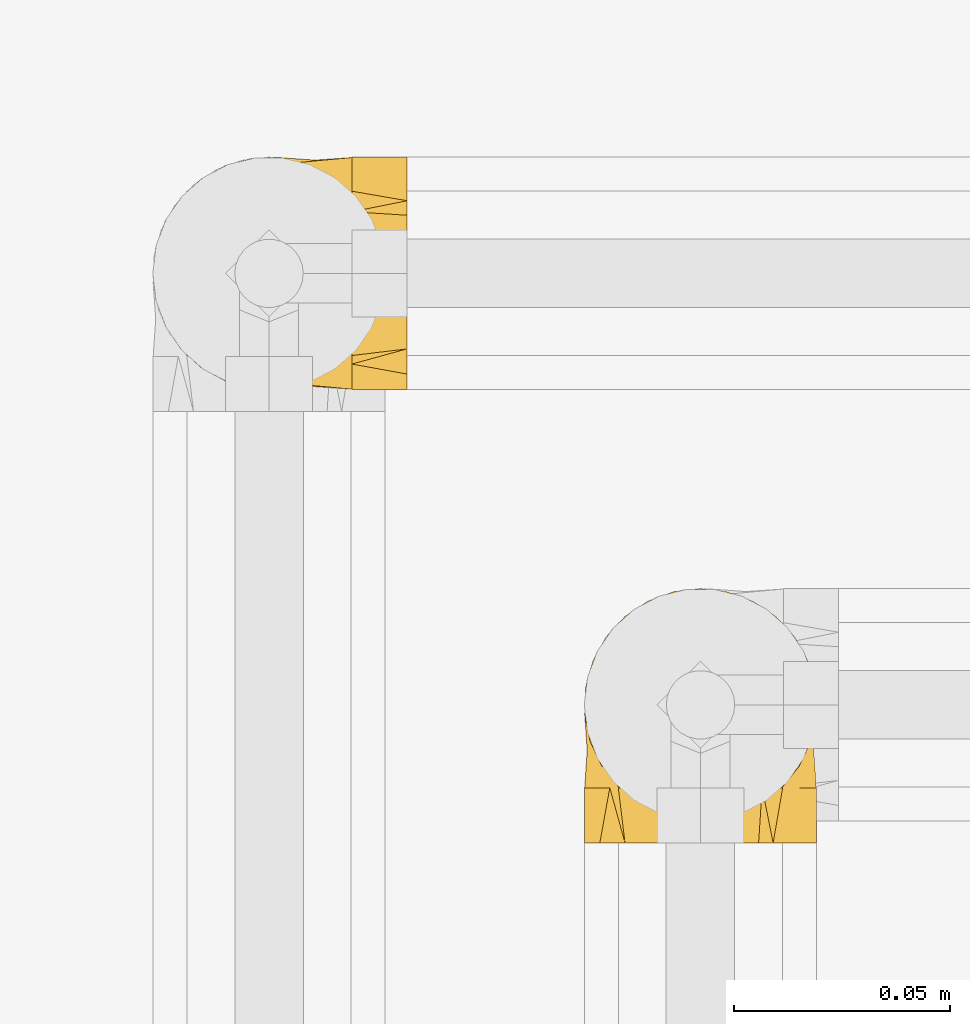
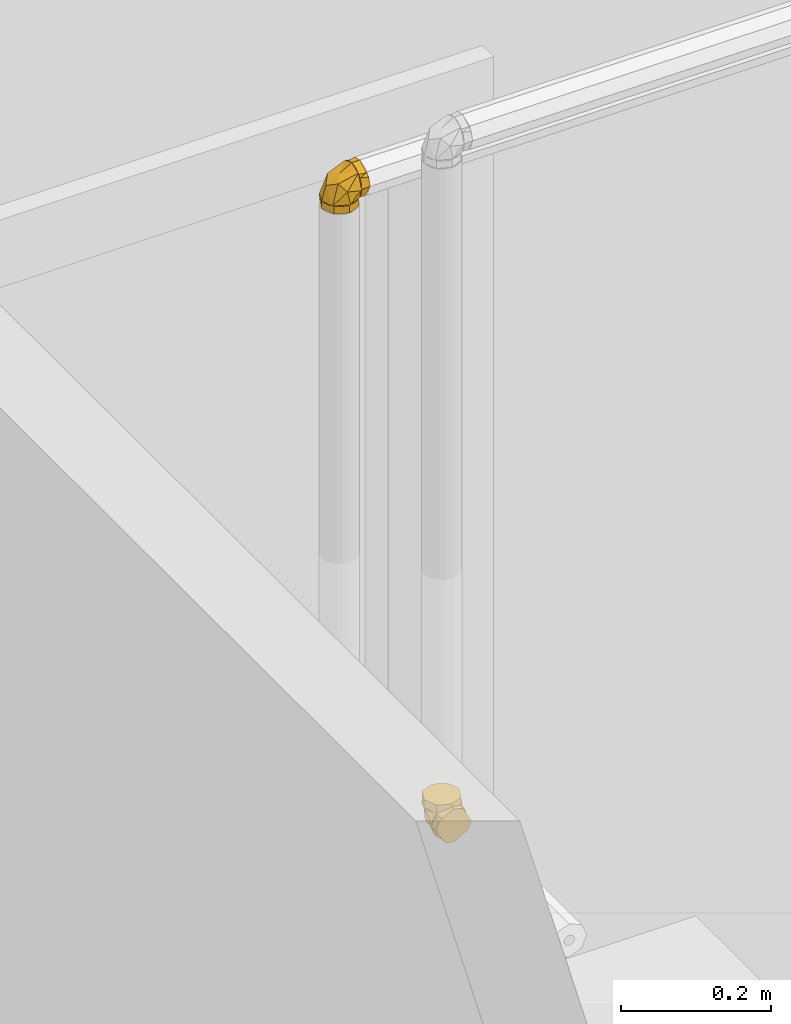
# One storey, part 382 of 652: 2 coverings.
"""IFC2X3 building model written with IfcOpenShell, lengths in millimetres."""

from ifc_helpers import new_model, entity, si_unit, converted_unit, direction, frame, origin, place, context, subcontext, project, spatial, face_set, surface_model, material, type_object, element, save


model = new_model("IFC2X3")

# Units and contexts
model_context = context("Model", 3, precision=0.01, world=frame((0.0, 0.0, 308426.39999999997)), true_north=direction((6.123233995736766e-17, 1.0)))
plan_context = context("Plan", 3, precision=0.01, world=frame((0.0, 0.0, 308426.39999999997)), true_north=direction((6.123233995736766e-17, 1.0)))
body_context = subcontext(model_context, "Body", "Model", "MODEL_VIEW")
ifc_project = project(units=[si_unit("LENGTHUNIT", "METRE", prefix="MILLI"), si_unit("AREAUNIT", "SQUARE_METRE"), si_unit("VOLUMEUNIT", "CUBIC_METRE"), converted_unit("PLANEANGLEUNIT", "DEGREE", entity("IfcPlaneAngleMeasure", 0.017453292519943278), si_unit("PLANEANGLEUNIT", "RADIAN"), dimensions=[0, 0, 0, 0, 0, 0, 0])], contexts=[model_context, plan_context])

# Site, building, storey
site_placement = place(None, origin())
site = spatial("IfcSite", under=ifc_project, at=site_placement, Name="Default", CompositionType="ELEMENT")
building_placement = place(site_placement, origin())
building = spatial("IfcBuilding", under=site, at=building_placement, CompositionType="ELEMENT")
storey_placement = place(building_placement, frame((0.0, 0.0, 1730.6999999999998)))
storey = spatial("IfcBuildingStorey", under=building, at=storey_placement, Name="EG_Produktion_FFB", CompositionType="ELEMENT", Elevation=1730.6999999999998)

# Coverings
ifc_material = material(Name="Dämmung - Armaflex-Schlauch")
covering_type = type_object("IfcCoveringType", Name="Rohrdämmung außen:Armaflex-Schlauch", PredefinedType="INSULATION")
covering_1_placement = place(storey_placement, frame((51766.957995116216, 55422.86390995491, 2671.4672277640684)))
element("IfcCovering", 1, at=covering_1_placement, inside=storey, type_object=covering_type, material=ifc_material, Name="Rohrdämmung außen:Armaflex-Schlauch", ObjectType="Rohrdämmung außen:Armaflex-Schlauch", PredefinedType="INSULATION", context=body_context, shape_type="SurfaceModel", body=[
    surface_model("IfcFaceBasedSurfaceModel", [(47.409122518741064, 12.766249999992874, 47.750272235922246), (51.38658262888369, 17.724287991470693, 47.750272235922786), (54.0915642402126, 23.47627931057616, 47.750272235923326), (55.37345654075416, 29.70195853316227, 47.75027223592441), (55.16088498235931, 36.054685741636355, 47.75027223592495), (53.465685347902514, 42.1807471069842, 47.75027223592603), (50.38224474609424, 47.7390493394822, 47.75027223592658), (46.08224622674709, 52.420111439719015, 47.75027223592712), (40.8051096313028, 55.963296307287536, 47.75027223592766), (34.844660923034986, 58.17132276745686, 47.75027223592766), (28.532772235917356, 58.921249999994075, 47.75027223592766), (22.220883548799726, 58.17132276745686, 47.75027223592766), (16.26043484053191, 55.963296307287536, 47.75027223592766), (10.983298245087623, 52.420111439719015, 47.75027223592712), (6.683299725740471, 47.7390493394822, 47.75027223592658), (3.599859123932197, 42.1807471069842, 47.75027223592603), (1.904659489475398, 36.054685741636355, 47.75027223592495), (1.6920879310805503, 29.70195853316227, 47.75027223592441), (2.973980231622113, 23.47627931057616, 47.750272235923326), (5.678961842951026, 17.724287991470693, 47.750272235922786), (9.65642195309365, 12.766249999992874, 47.750272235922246), (5.678961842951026, 12.766249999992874, 42.79223424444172), (2.973980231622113, 12.766249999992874, 37.04024292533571), (1.6920879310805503, 12.766249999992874, 30.81456370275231), (1.904659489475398, 12.766249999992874, 24.46183649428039), (3.599859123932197, 12.766249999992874, 18.33577512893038), (6.683299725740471, 12.766249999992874, 12.777472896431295), (10.983298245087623, 12.766250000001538, 8.096410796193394), (16.26043484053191, 12.766250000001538, 4.553225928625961), (22.220883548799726, 12.766250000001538, 2.3451994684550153), (28.532772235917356, 12.766250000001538, 1.5952722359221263), (34.844660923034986, 12.766250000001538, 2.3451994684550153), (40.8051096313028, 12.766250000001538, 4.553225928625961), (46.08224622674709, 12.766250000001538, 8.096410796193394), (50.38224474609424, 12.766249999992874, 12.777472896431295), (53.465685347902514, 12.766249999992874, 18.33577512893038), (55.16088498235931, 12.766249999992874, 24.46183649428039), (55.37345654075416, 12.766249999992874, 30.81456370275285), (54.0915642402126, 12.766249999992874, 37.04024292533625), (51.38658262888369, 12.766249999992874, 42.79223424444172), (54.790491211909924, 21.44485469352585, 37.80740068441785), (28.531628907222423, 52.73596797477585, 24.672737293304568), (53.464990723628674, 33.56504512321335, 26.951086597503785), (50.72562304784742, 41.06226192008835, 47.750398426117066), (28.531628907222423, 31.030316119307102, 12.13978136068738), (42.78192187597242, 41.84360957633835, 17.332487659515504), (50.72562304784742, 12.766314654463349, 19.45561388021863), (14.28598681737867, 41.84360957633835, 17.332487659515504), (3.598267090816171, 33.56504512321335, 26.951086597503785), (2.2774174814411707, 21.44485469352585, 37.80740068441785), (6.337634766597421, 12.766314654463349, 19.45561388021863), (6.337634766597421, 41.06226192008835, 47.750398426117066), (42.818538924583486, 53.00389168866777, 60.51652223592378), (38.056616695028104, 54.97634445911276, 60.51652223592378), (33.29469446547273, 56.948797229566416, 60.51652223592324), (28.532772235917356, 58.921250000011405, 60.5165222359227), (23.77085000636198, 56.94879722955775, 60.51652223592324), (19.008927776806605, 54.97634445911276, 60.51652223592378), (14.247005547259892, 53.00389168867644, 60.51652223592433), (9.485083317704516, 51.03143891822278, 60.51652223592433), (7.512630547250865, 46.26951668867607, 60.51652223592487), (5.540177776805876, 41.507594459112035, 60.51652223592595), (3.567725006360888, 36.74567222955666, 60.51652223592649), (1.5952722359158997, 31.983750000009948, 60.516522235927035), (3.567725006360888, 27.221827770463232, 60.516522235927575), (5.540177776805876, 22.459905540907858, 60.516522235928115), (7.512630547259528, 17.697983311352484, 60.516522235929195), (9.485083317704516, 12.936061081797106, 60.51652223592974), (14.247005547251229, 10.963608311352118, 60.51652223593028), (19.008927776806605, 8.99115554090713, 60.51652223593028), (23.77085000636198, 7.018702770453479, 60.51652223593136), (28.532772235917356, 5.046250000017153, 60.51652223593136), (33.29469446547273, 7.018702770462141, 60.51652223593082), (38.056616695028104, 8.99115554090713, 60.51652223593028), (42.818538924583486, 10.963608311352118, 60.51652223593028), (47.5804611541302, 12.936061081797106, 60.51652223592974), (49.55291392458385, 17.697983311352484, 60.516522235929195), (51.525366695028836, 22.459905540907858, 60.516522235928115), (53.497819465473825, 27.22182777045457, 60.516522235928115), (55.47027223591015, 31.983750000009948, 60.516522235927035), (53.497819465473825, 36.74567222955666, 60.51652223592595), (51.525366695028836, 41.507594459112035, 60.51652223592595), (49.552913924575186, 46.26951668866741, 60.51652223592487), (47.5804611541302, 51.03143891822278, 60.51652223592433), (28.532772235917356, 58.92125000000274, 47.75027223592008), (33.29469446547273, 56.94879722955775, 47.75027223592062), (38.056616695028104, 54.97634445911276, 47.750272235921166), (42.81853892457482, 53.00389168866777, 47.750272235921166), (47.5804611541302, 51.03143891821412, 47.750272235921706), (49.96980627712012, 45.26304951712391, 47.750272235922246), (52.35915140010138, 39.49466011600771, 47.750272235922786), (55.47027223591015, 31.983750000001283, 47.75027223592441), (53.497819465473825, 27.221827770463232, 47.75027223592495), (51.525366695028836, 22.459905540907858, 47.75027223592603), (49.552913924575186, 17.697983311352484, 47.75027223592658), (47.5804611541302, 12.936061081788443, 47.75027223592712), (41.81207175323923, 10.546715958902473, 47.75027223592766), (36.04368235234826, 8.157370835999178, 47.7502722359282), (28.532772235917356, 5.046250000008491, 47.75027223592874), (23.77085000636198, 7.018702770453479, 47.7502722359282), (19.008927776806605, 8.99115554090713, 47.7502722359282), (14.247005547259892, 10.963608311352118, 47.7502722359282), (9.485083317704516, 12.936061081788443, 47.75027223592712), (7.095738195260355, 18.704450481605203, 47.75027223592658), (4.706393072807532, 24.472839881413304, 47.75027223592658), (1.5952722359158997, 31.983750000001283, 47.75027223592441), (3.567725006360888, 36.74567222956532, 47.75027223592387), (5.540177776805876, 41.507594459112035, 47.750272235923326), (7.512630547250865, 46.26951668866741, 47.750272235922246), (9.485083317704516, 51.03143891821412, 47.750272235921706), (15.253472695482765, 53.420784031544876, 47.750272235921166), (21.021862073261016, 55.81012914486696, 47.750272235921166), (28.532772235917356, 0.0, 1.5952722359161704), (34.36491206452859, 0.0, 4.962459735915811), (40.197051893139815, 0.0, 8.329647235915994), (46.02919172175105, 0.0, 11.696834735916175), (51.86133155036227, 0.0, 15.064022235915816), (53.66580189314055, 0.0, 21.798397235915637), (55.47027223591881, 0.0, 28.532772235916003), (52.10308473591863, 0.0, 34.36491206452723), (48.73589723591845, 0.0, 40.19705189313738), (45.368709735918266, 0.0, 46.02919172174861), (42.00152223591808, 0.0, 51.861331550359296), (35.26714723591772, 0.0, 53.66580189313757), (28.532772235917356, 0.0, 55.470272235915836), (22.700632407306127, 0.0, 52.10308473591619), (16.868492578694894, 0.0, 48.73589723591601), (11.036352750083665, 0.0, 45.36870973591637), (5.204212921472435, 0.0, 42.00152223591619), (3.3997425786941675, 0.0, 35.26714723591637), (1.5952722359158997, 0.0, 28.532772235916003), (4.962459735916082, 0.0, 22.700632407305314), (8.329647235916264, 0.0, 16.868492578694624), (11.696834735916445, 0.0, 11.036352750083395), (15.064022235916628, 0.0, 5.204212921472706), (21.79839723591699, 0.0, 3.3997425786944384), (28.532772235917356, 12.766250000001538, 1.5952722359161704), (23.77085000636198, 12.766250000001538, 3.567725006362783), (19.008927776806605, 12.766250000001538, 5.540177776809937), (14.247005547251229, 12.766250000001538, 7.512630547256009), (9.485083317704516, 12.766250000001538, 9.485083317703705), (7.512630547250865, 12.766250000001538, 14.247005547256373), (5.540177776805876, 12.766250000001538, 19.008927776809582), (3.567725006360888, 12.766250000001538, 23.770850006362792), (1.5952722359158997, 12.766250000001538, 28.532772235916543), (3.567725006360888, 12.766250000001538, 33.29469446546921), (5.540177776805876, 12.766250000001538, 38.05661669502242), (7.512630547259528, 12.766250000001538, 42.818538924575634), (9.485083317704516, 12.766250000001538, 47.58046115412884), (14.247005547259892, 12.766250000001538, 49.552913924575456), (19.008927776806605, 12.766250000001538, 51.525366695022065), (23.77085000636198, 12.766250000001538, 53.49781946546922), (28.532772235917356, 12.766250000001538, 55.470272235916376), (33.29469446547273, 12.766250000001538, 53.49781946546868), (38.056616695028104, 12.766250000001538, 51.525366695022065), (42.818538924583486, 12.766250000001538, 49.552913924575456), (47.5804611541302, 12.766250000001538, 47.58046115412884), (49.552913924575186, 12.766250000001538, 42.818538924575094), (51.525366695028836, 12.766250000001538, 38.05661669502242), (53.497819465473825, 12.766250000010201, 33.29469446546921), (55.47027223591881, 12.766250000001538, 28.532772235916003), (53.497819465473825, 12.766250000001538, 23.770850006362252), (51.525366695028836, 12.766250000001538, 19.008927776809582), (49.552913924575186, 12.766250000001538, 14.247005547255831), (47.5804611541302, 12.766250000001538, 9.485083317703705), (42.81853892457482, 12.766250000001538, 7.512630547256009), (38.056616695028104, 12.766250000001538, 5.540177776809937), (33.29469446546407, 12.766250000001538, 3.5677250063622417)], [face_set([[[0, 1, 2, 3, 4, 5, 6, 7, 8, 9, 10, 11, 12, 13, 14, 15, 16, 17, 18, 19]], [[20, 21, 22, 23, 24, 25, 26, 27, 28, 29, 30, 31, 32, 33, 34, 35, 36, 37, 38, 39]], [[0, 40, 3]], [[10, 7, 41]], [[37, 42, 40]], [[42, 7, 43]], [[37, 40, 0]], [[3, 40, 42]], [[44, 41, 45]], [[7, 45, 41]], [[33, 30, 44]], [[44, 45, 33]], [[42, 33, 45]], [[42, 37, 46]], [[7, 42, 45]], [[43, 3, 42]], [[46, 33, 42]], [[13, 10, 41]], [[27, 47, 44]], [[44, 30, 27]], [[48, 47, 27]], [[49, 48, 23]], [[48, 50, 23]], [[44, 47, 41]], [[20, 49, 23]], [[47, 48, 13]], [[17, 49, 20]], [[41, 47, 13]], [[48, 17, 51]], [[48, 27, 50]], [[17, 48, 49]], [[51, 13, 48]]]), face_set([[[52, 53, 54, 55, 56, 57, 58, 59, 60, 61, 62, 63, 64, 65, 66, 67, 68, 69, 70, 71, 72, 73, 74, 75, 76, 77, 78, 79, 80, 81, 82, 83]], [[84, 85, 86, 87, 88, 89, 90, 91, 92, 93, 94, 95, 96, 97, 98, 99, 100, 101, 102, 103, 104, 105, 106, 107, 108, 109, 110, 111]], [[111, 110, 109, 59, 58, 57, 56, 55, 84]], [[59, 109, 108, 107, 106, 105, 63, 62, 61, 60]], [[104, 103, 102, 67, 66, 65, 64, 63, 105]], [[67, 102, 101, 100, 99, 98, 71, 70, 69, 68]], [[97, 96, 95, 75, 74, 73, 72, 71, 98]], [[75, 95, 94, 93, 92, 91, 79, 78, 77, 76]], [[90, 89, 88, 83, 82, 81, 80, 79, 91]], [[83, 88, 87, 86, 85, 84, 55, 54, 53, 52]]]), face_set([[[112, 113, 114, 115, 116, 117, 118, 119, 120, 121, 122, 123, 124, 125, 126, 127, 128, 129, 130, 131, 132, 133, 134, 135]], [[136, 137, 138, 139, 140, 141, 142, 143, 144, 145, 146, 147, 148, 149, 150, 151, 152, 153, 154, 155, 156, 157, 158, 159, 160, 161, 162, 163, 164, 165, 166, 167]], [[155, 121, 156]], [[118, 159, 119]], [[159, 158, 119]], [[123, 154, 153]], [[153, 152, 124]], [[121, 155, 122]], [[120, 158, 157]], [[118, 160, 159]], [[158, 120, 119]], [[124, 123, 153]], [[157, 156, 121]], [[155, 154, 122]], [[123, 122, 154]], [[120, 157, 121]], [[163, 115, 164]], [[112, 167, 113]], [[167, 166, 113]], [[117, 162, 161]], [[161, 160, 118]], [[115, 163, 116]], [[114, 166, 165]], [[112, 136, 167]], [[166, 114, 113]], [[118, 117, 161]], [[165, 164, 115]], [[163, 162, 116]], [[117, 116, 162]], [[114, 165, 115]], [[139, 133, 140]], [[130, 143, 131]], [[143, 142, 131]], [[135, 138, 137]], [[137, 136, 112]], [[133, 139, 134]], [[132, 142, 141]], [[130, 144, 143]], [[142, 132, 131]], [[112, 135, 137]], [[141, 140, 133]], [[139, 138, 134]], [[135, 134, 138]], [[132, 141, 133]], [[147, 127, 148]], [[124, 151, 125]], [[151, 150, 125]], [[129, 146, 145]], [[145, 144, 130]], [[127, 147, 128]], [[126, 150, 149]], [[124, 152, 151]], [[150, 126, 125]], [[130, 129, 145]], [[149, 148, 127]], [[147, 146, 128]], [[129, 128, 146]], [[126, 149, 127]]])]),
])
covering_2_placement = place(storey_placement, frame((51666.95799511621, 55526.31488771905, 3668.0162500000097)))
element("IfcCovering", 2, at=covering_2_placement, inside=storey, type_object=covering_type, material=ifc_material, Name="Rohrdämmung außen:Armaflex-Schlauch", ObjectType="Rohrdämmung außen:Armaflex-Schlauch", PredefinedType="INSULATION", context=body_context, shape_type="SurfaceModel", body=[
    surface_model("IfcFaceBasedSurfaceModel", [(47.750272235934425, 9.65642195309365, 12.766250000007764), (42.79223424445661, 5.678961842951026, 12.76625000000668), (37.040242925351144, 2.973980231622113, 12.76625000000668), (30.81456370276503, 1.6920879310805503, 12.766250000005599), (24.461836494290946, 1.904659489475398, 12.766250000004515), (18.3357751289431, 3.599859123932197, 12.766250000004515), (12.777472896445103, 6.683299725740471, 12.766250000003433), (8.096410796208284, 10.983298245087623, 12.766250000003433), (4.553225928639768, 16.26043484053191, 12.76625000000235), (2.345199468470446, 22.220883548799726, 12.76625000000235), (1.5952722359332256, 28.532772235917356, 12.76625000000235), (2.345199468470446, 34.844660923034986, 12.76625000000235), (4.553225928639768, 40.8051096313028, 12.76625000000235), (8.096410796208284, 46.08224622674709, 12.766250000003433), (12.777472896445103, 50.38224474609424, 12.766250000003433), (18.3357751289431, 53.465685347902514, 12.766250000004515), (24.461836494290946, 55.16088498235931, 12.766250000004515), (30.81456370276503, 55.37345654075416, 12.766250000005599), (37.040242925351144, 54.0915642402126, 12.76625000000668), (42.79223424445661, 51.38658262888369, 12.76625000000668), (47.750272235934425, 47.409122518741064, 12.766250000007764), (47.750272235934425, 5.678961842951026, 17.72428799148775), (47.750272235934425, 2.973980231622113, 23.4762793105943), (47.750272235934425, 1.6920879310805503, 29.70195853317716), (47.750272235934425, 1.904659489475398, 36.05468574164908), (47.750272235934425, 3.599859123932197, 42.18074710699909), (47.750272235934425, 6.683299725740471, 47.73904933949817), (47.75027223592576, 10.983298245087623, 52.420111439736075), (47.75027223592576, 16.26043484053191, 55.96329630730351), (47.75027223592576, 22.220883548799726, 58.171322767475), (47.75027223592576, 28.532772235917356, 58.92125000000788), (47.75027223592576, 34.844660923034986, 58.171322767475), (47.75027223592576, 40.8051096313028, 55.96329630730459), (47.75027223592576, 46.08224622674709, 52.420111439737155), (47.750272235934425, 50.38224474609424, 47.73904933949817), (47.750272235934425, 53.465685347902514, 42.18074710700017), (47.750272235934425, 55.16088498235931, 36.05468574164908), (47.750272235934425, 55.37345654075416, 29.70195853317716), (47.750272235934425, 54.0915642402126, 23.4762793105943), (47.750272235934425, 51.38658262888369, 17.72428799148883), (39.071973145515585, 2.2771044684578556, 22.70922760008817), (7.780859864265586, 28.531315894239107, 35.84389099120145), (19.454565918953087, 6.3373217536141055, 12.76622985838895), (26.951782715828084, 3.597954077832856, 33.56554168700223), (18.673218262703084, 14.285673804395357, 43.18414062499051), (29.486511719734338, 28.531315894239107, 48.37684692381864), (47.75051318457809, 6.3373217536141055, 41.06101440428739), (18.673218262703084, 42.78160886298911, 43.18414062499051), (26.951782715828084, 53.464677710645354, 33.56554168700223), (39.071973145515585, 54.790178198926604, 22.70922760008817), (47.75051318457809, 50.729960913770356, 41.06101440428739), (19.454565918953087, 50.729960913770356, 12.76622985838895), (7.512630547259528, 14.247005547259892, 0.0), (5.540177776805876, 19.008927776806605, 0.0), (3.567725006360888, 23.77085000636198, 0.0), (1.5952722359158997, 28.532772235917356, 0.0), (3.567725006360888, 33.29469446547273, 0.0), (5.540177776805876, 38.056616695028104, 0.0), (7.512630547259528, 42.818538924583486, 0.0), (9.485083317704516, 47.5804611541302, 0.0), (14.247005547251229, 49.55291392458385, 0.0), (19.008927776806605, 51.525366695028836, 0.0), (23.77085000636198, 53.497819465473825, 0.0), (28.532772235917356, 55.47027223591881, 0.0), (33.29469446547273, 53.497819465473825, 0.0), (38.056616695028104, 51.525366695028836, 0.0), (42.81853892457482, 49.552913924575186, 0.0), (47.5804611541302, 47.5804611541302, 0.0), (49.55291392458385, 42.818538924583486, 0.0), (51.525366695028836, 38.056616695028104, 0.0), (53.497819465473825, 33.29469446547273, 0.0), (55.47027223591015, 28.532772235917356, 0.0), (53.497819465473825, 23.77085000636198, 0.0), (51.525366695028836, 19.008927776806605, 0.0), (49.55291392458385, 14.247005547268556, 0.0), (47.5804611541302, 9.485083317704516, 0.0), (42.818538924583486, 7.512630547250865, 0.0), (38.056616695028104, 5.540177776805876, 0.0), (33.29469446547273, 3.567725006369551, 0.0), (28.532772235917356, 1.5952722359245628, 0.0), (23.77085000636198, 3.567725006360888, 0.0), (19.008927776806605, 5.540177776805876, 0.0), (14.247005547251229, 7.512630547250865, 0.0), (9.485083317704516, 9.485083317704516, 0.0), (1.5952722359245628, 28.532772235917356, 12.76625000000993), (3.567725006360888, 23.77085000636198, 12.76625000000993), (5.540177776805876, 19.008927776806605, 12.76625000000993), (7.512630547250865, 14.247005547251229, 12.766250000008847), (9.48508331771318, 9.485083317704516, 12.766250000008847), (15.253472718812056, 7.095738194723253, 12.766250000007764), (21.02186211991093, 4.706393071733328, 12.76625000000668), (28.532772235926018, 1.5952722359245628, 12.766250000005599), (33.29469446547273, 3.567725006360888, 12.766250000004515), (38.056616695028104, 5.540177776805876, 12.766250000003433), (42.81853892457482, 7.512630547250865, 12.76625000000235), (47.58046115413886, 9.485083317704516, 12.76625000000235), (49.96980627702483, 15.253472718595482, 12.76625000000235), (52.35915139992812, 21.021862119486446, 12.766250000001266), (55.47027223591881, 28.532772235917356, 12.766250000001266), (53.497819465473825, 33.29469446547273, 12.766250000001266), (51.525366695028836, 38.056616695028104, 12.766250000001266), (49.55291392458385, 42.818538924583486, 12.76625000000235), (47.58046115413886, 47.5804611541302, 12.76625000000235), (41.8120717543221, 49.96980627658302, 12.766250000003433), (36.043682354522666, 52.359151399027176, 12.766250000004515), (28.532772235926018, 55.47027223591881, 12.766250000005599), (23.77085000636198, 53.497819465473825, 12.76625000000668), (19.008927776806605, 51.525366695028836, 12.766250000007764), (14.247005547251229, 49.552913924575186, 12.766250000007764), (9.48508331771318, 47.5804611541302, 12.766250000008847), (7.095738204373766, 41.81207177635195, 12.766250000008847), (4.706393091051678, 36.0436823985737, 12.76625000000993), (60.51652223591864, 28.532772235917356, 58.92125000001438), (60.516522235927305, 22.70063240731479, 55.554062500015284), (60.51652223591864, 16.868492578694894, 52.1868750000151), (60.51652223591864, 11.036352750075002, 48.819687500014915), (60.51652223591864, 5.204212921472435, 45.45250000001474), (60.51652223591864, 3.3997425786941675, 38.718125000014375), (60.51652223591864, 1.5952722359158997, 31.98375000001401), (60.516522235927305, 4.962459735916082, 26.151610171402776), (60.51652223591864, 8.329647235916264, 20.31947034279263), (60.51652223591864, 11.696834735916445, 14.487330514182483), (60.51652223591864, 15.064022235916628, 8.655190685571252), (60.51652223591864, 21.79839723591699, 6.850720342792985), (60.51652223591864, 28.532772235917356, 5.046250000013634), (60.516522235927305, 34.36491206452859, 8.413437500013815), (60.51652223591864, 40.197051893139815, 11.780625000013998), (60.51652223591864, 46.02919172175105, 15.14781250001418), (60.51652223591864, 51.86133155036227, 18.51500000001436), (60.51652223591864, 53.66580189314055, 25.249375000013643), (60.51652223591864, 55.47027223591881, 31.98375000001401), (60.516522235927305, 52.10308473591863, 37.81588982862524), (60.51652223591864, 48.73589723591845, 43.648029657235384), (60.51652223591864, 45.36870973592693, 49.480169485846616), (60.51652223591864, 42.00152223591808, 55.31230931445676), (60.51652223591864, 35.26714723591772, 57.11677965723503), (47.75027223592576, 28.532772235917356, 58.92125000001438), (47.75027223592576, 33.29469446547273, 56.94879722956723), (47.75027223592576, 38.056616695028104, 54.97634445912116), (47.75027223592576, 42.818538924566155, 53.003891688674), (47.75027223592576, 47.5804611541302, 51.03143891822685), (47.75027223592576, 49.55291392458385, 46.26951668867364), (47.75027223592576, 51.525366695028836, 41.507594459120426), (47.75027223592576, 53.497819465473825, 36.74567222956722), (47.75027223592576, 55.47027223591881, 31.98375000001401), (47.75027223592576, 53.497819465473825, 27.2218277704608), (47.75027223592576, 51.525366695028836, 22.459905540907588), (47.75027223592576, 49.552913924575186, 17.697983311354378), (47.75027223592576, 47.5804611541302, 12.936061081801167), (47.75027223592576, 42.81853892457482, 10.963608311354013), (47.75027223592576, 38.056616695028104, 8.99115554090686), (47.75027223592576, 33.29469446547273, 7.018702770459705), (47.75027223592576, 28.532772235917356, 5.046250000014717), (47.75027223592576, 23.77085000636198, 7.018702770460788), (47.75027223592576, 19.008927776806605, 8.99115554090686), (47.750272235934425, 14.247005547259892, 10.963608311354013), (47.75027223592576, 9.485083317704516, 12.936061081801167), (47.75027223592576, 7.512630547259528, 17.697983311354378), (47.75027223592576, 5.540177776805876, 22.459905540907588), (47.75027223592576, 3.567725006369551, 27.2218277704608), (47.75027223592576, 1.5952722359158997, 31.98375000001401), (47.75027223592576, 3.567725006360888, 36.74567222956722), (47.75027223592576, 5.540177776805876, 41.507594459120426), (47.75027223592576, 7.512630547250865, 46.26951668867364), (47.75027223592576, 9.485083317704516, 51.03143891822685), (47.75027223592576, 14.247005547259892, 53.003891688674), (47.75027223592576, 19.008927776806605, 54.97634445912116), (47.75027223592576, 23.77085000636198, 56.94879722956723)], [face_set([[[0, 1, 2, 3, 4, 5, 6, 7, 8, 9, 10, 11, 12, 13, 14, 15, 16, 17, 18, 19]], [[20, 21, 22, 23, 24, 25, 26, 27, 28, 29, 30, 31, 32, 33, 34, 35, 36, 37, 38, 39]], [[0, 40, 3]], [[10, 7, 41]], [[42, 3, 43]], [[40, 43, 3]], [[23, 40, 0]], [[7, 43, 44]], [[45, 41, 44]], [[7, 44, 41]], [[27, 30, 45]], [[45, 44, 27]], [[43, 27, 44]], [[43, 23, 46, 27]], [[43, 7, 42]], [[23, 43, 40]], [[13, 10, 41]], [[33, 47, 45]], [[45, 30, 33]], [[48, 47, 33]], [[49, 48, 37]], [[48, 50, 37]], [[45, 47, 41]], [[20, 49, 37]], [[47, 48, 13]], [[17, 49, 20]], [[41, 47, 13]], [[48, 17, 51]], [[48, 33, 50]], [[17, 48, 49]], [[51, 13, 48]]]), face_set([[[52, 53, 54, 55, 56, 57, 58, 59, 60, 61, 62, 63, 64, 65, 66, 67, 68, 69, 70, 71, 72, 73, 74, 75, 76, 77, 78, 79, 80, 81, 82, 83]], [[84, 85, 86, 87, 88, 89, 90, 91, 92, 93, 94, 95, 96, 97, 98, 99, 100, 101, 102, 103, 104, 105, 106, 107, 108, 109, 110, 111]], [[111, 110, 109, 59, 58, 57, 56, 55, 84]], [[59, 109, 108, 107, 106, 105, 63, 62, 61, 60]], [[104, 103, 102, 67, 66, 65, 64, 63, 105]], [[67, 102, 101, 100, 99, 98, 71, 70, 69, 68]], [[97, 96, 95, 75, 74, 73, 72, 71, 98]], [[75, 95, 94, 93, 92, 91, 79, 78, 77, 76]], [[90, 89, 88, 83, 82, 81, 80, 79, 91]], [[83, 88, 87, 86, 85, 84, 55, 54, 53, 52]]]), face_set([[[112, 113, 114, 115, 116, 117, 118, 119, 120, 121, 122, 123, 124, 125, 126, 127, 128, 129, 130, 131, 132, 133, 134, 135]], [[136, 137, 138, 139, 140, 141, 142, 143, 144, 145, 146, 147, 148, 149, 150, 151, 152, 153, 154, 155, 156, 157, 158, 159, 160, 161, 162, 163, 164, 165, 166, 167]], [[155, 121, 156]], [[118, 159, 119]], [[159, 158, 119]], [[123, 154, 153]], [[153, 152, 124]], [[121, 155, 122]], [[120, 158, 157]], [[118, 160, 159]], [[158, 120, 119]], [[124, 123, 153]], [[157, 156, 121]], [[155, 154, 122]], [[123, 122, 154]], [[120, 157, 121]], [[163, 115, 164]], [[112, 167, 113]], [[167, 166, 113]], [[117, 162, 161]], [[161, 160, 118]], [[115, 163, 116]], [[114, 166, 165]], [[112, 136, 167]], [[166, 114, 113]], [[118, 117, 161]], [[165, 164, 115]], [[163, 162, 116]], [[117, 116, 162]], [[114, 165, 115]], [[139, 133, 140]], [[130, 143, 131]], [[143, 142, 131]], [[135, 138, 137]], [[137, 136, 112]], [[133, 139, 134]], [[132, 142, 141]], [[130, 144, 143]], [[142, 132, 131]], [[112, 135, 137]], [[141, 140, 133]], [[139, 138, 134]], [[135, 134, 138]], [[132, 141, 133]], [[147, 127, 148]], [[124, 151, 125]], [[151, 150, 125]], [[129, 146, 145]], [[145, 144, 130]], [[127, 147, 128]], [[126, 150, 149]], [[124, 152, 151]], [[150, 126, 125]], [[130, 129, 145]], [[149, 148, 127]], [[147, 146, 128]], [[129, 128, 146]], [[126, 149, 127]]])]),
])

save(model, "model.ifc")
